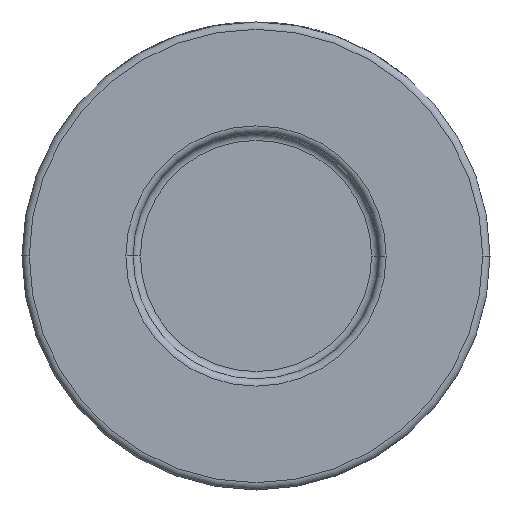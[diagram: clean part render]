
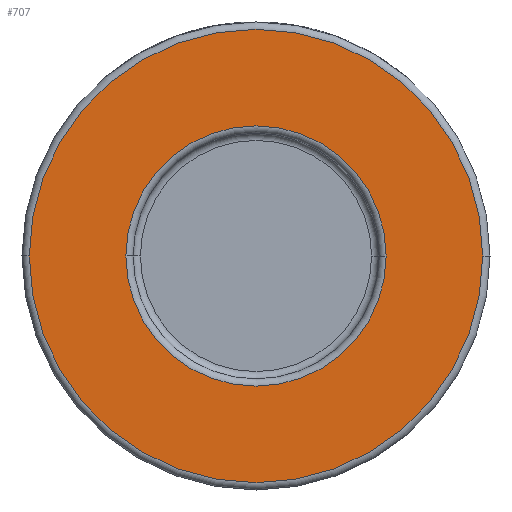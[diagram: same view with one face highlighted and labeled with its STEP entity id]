
A CAD part, front view. The second image highlights one B-rep face of the part: STEP entity #707.
In plain terms, the highlighted planar face has unit normal (0, -1, 0).
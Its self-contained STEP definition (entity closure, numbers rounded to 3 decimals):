
#47 = DIRECTION ( 'NONE',  ( 0., 1., 0. ) ) ;
#71 = CIRCLE ( 'NONE', #951, 17.8 ) ;
#331 = DIRECTION ( 'NONE',  ( 0., -1., 0. ) ) ;
#428 = EDGE_CURVE ( 'NONE', #2197, #4286, #1071, .T. ) ;
#665 = CARTESIAN_POINT ( 'NONE',  ( 31., -22., 0. ) ) ;
#678 = EDGE_LOOP ( 'NONE', ( #1150, #3331 ) ) ;
#707 = ADVANCED_FACE ( 'NONE', ( #2464, #2514 ), #3905, .T. ) ;
#725 = AXIS2_PLACEMENT_3D ( 'NONE', #1837, #1507, #3240 ) ;
#784 = CARTESIAN_POINT ( 'NONE',  ( 0., -22., 0. ) ) ;
#871 = CIRCLE ( 'NONE', #725, 17.8 ) ;
#951 = AXIS2_PLACEMENT_3D ( 'NONE', #784, #47, #1126 ) ;
#1008 = DIRECTION ( 'NONE',  ( 1., 0., 0. ) ) ;
#1071 = CIRCLE ( 'NONE', #4153, 31. ) ;
#1126 = DIRECTION ( 'NONE',  ( 1., 0., 0. ) ) ;
#1150 = ORIENTED_EDGE ( 'NONE', *, *, #2712, .T. ) ;
#1174 = CIRCLE ( 'NONE', #2275, 31. ) ;
#1507 = DIRECTION ( 'NONE',  ( 0., 1., 0. ) ) ;
#1837 = CARTESIAN_POINT ( 'NONE',  ( 0., -22., 0. ) ) ;
#1860 = DIRECTION ( 'NONE',  ( 1., 0., 0. ) ) ;
#1926 = EDGE_CURVE ( 'NONE', #2312, #2739, #71, .T. ) ;
#1928 = CARTESIAN_POINT ( 'NONE',  ( 17.8, -22., 0. ) ) ;
#2044 = CARTESIAN_POINT ( 'NONE',  ( 32., -22., 0. ) ) ;
#2058 = CARTESIAN_POINT ( 'NONE',  ( 0., -22., 0. ) ) ;
#2176 = CARTESIAN_POINT ( 'NONE',  ( -31., -22., 0. ) ) ;
#2181 = AXIS2_PLACEMENT_3D ( 'NONE', #2044, #3488, #1008 ) ;
#2197 = VERTEX_POINT ( 'NONE', #665 ) ;
#2218 = CARTESIAN_POINT ( 'NONE',  ( -17.8, -22., 0. ) ) ;
#2275 = AXIS2_PLACEMENT_3D ( 'NONE', #2854, #2922, #1860 ) ;
#2312 = VERTEX_POINT ( 'NONE', #2218 ) ;
#2339 = ORIENTED_EDGE ( 'NONE', *, *, #2601, .T. ) ;
#2464 = FACE_BOUND ( 'NONE', #678, .T. ) ;
#2514 = FACE_OUTER_BOUND ( 'NONE', #3634, .T. ) ;
#2601 = EDGE_CURVE ( 'NONE', #4286, #2197, #1174, .T. ) ;
#2712 = EDGE_CURVE ( 'NONE', #2739, #2312, #871, .T. ) ;
#2739 = VERTEX_POINT ( 'NONE', #1928 ) ;
#2854 = CARTESIAN_POINT ( 'NONE',  ( 0., -22., 0. ) ) ;
#2922 = DIRECTION ( 'NONE',  ( 0., -1., 0. ) ) ;
#3240 = DIRECTION ( 'NONE',  ( 1., 0., 0. ) ) ;
#3331 = ORIENTED_EDGE ( 'NONE', *, *, #1926, .T. ) ;
#3488 = DIRECTION ( 'NONE',  ( 0., -1., 0. ) ) ;
#3634 = EDGE_LOOP ( 'NONE', ( #3692, #2339 ) ) ;
#3692 = ORIENTED_EDGE ( 'NONE', *, *, #428, .T. ) ;
#3905 = PLANE ( 'NONE',  #2181 ) ;
#4078 = DIRECTION ( 'NONE',  ( 1., 0., 0. ) ) ;
#4153 = AXIS2_PLACEMENT_3D ( 'NONE', #2058, #331, #4078 ) ;
#4286 = VERTEX_POINT ( 'NONE', #2176 ) ;
